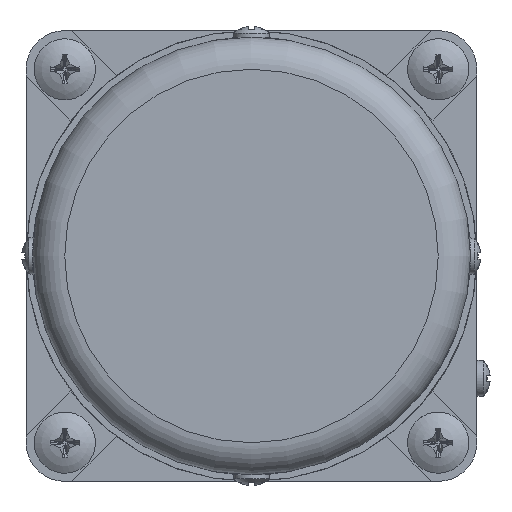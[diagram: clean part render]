
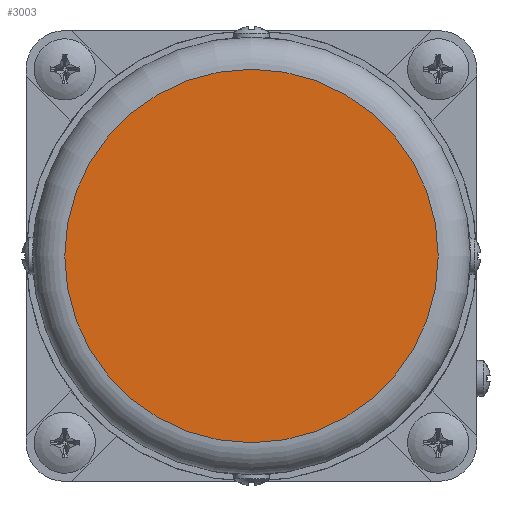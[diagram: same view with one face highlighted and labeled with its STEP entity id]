
A CAD part, left-side view. The second image highlights one B-rep face of the part: STEP entity #3003.
In plain terms, the highlighted planar face has unit normal (-1, 0, 0).
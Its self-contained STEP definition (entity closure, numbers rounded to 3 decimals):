
#1917=PLANE('',#8998);
#3003=ADVANCED_FACE('',(#3445),#1917,.T.);
#3445=FACE_OUTER_BOUND('',#4033,.T.);
#4033=EDGE_LOOP('',(#5685));
#5685=ORIENTED_EDGE('',*,*,#7622,.T.);
#6698=VERTEX_POINT('',#14460);
#7622=EDGE_CURVE('',#6698,#6698,#8147,.T.);
#8147=CIRCLE('',#8997,29.);
#8997=AXIS2_PLACEMENT_3D('',#14459,#10465,#10466);
#8998=AXIS2_PLACEMENT_3D('',#14461,#10467,#10468);
#10465=DIRECTION('',(-1.,0.,0.));
#10466=DIRECTION('',(0.,0.,-1.));
#10467=DIRECTION('',(-1.,0.,0.));
#10468=DIRECTION('',(0.,0.,-1.));
#14459=CARTESIAN_POINT('',(-123.,0.,0.));
#14460=CARTESIAN_POINT('',(-123.,0.,-29.));
#14461=CARTESIAN_POINT('',(-123.,0.,0.));
